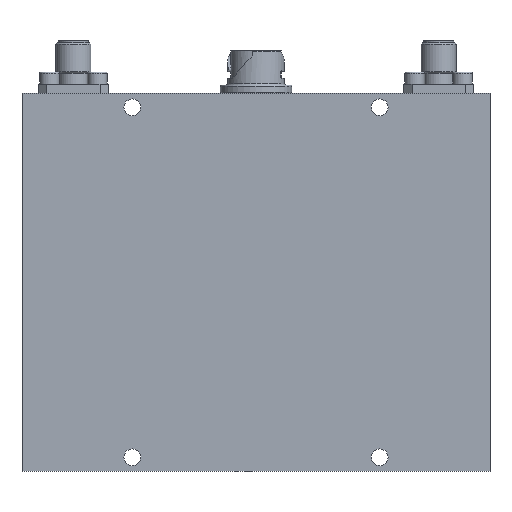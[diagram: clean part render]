
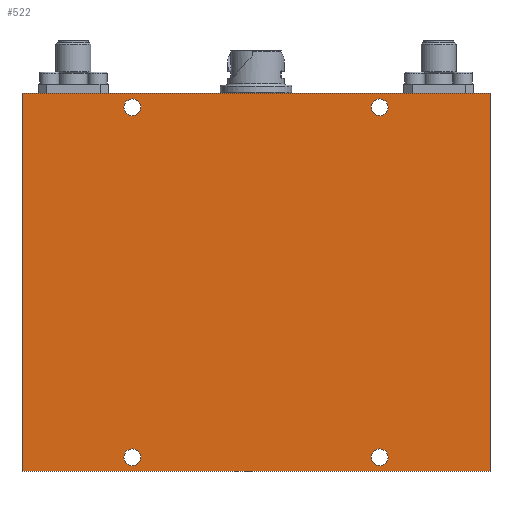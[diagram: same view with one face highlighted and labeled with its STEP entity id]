
A CAD part, front view. The second image highlights one B-rep face of the part: STEP entity #522.
In plain terms, the highlighted planar face has unit normal (0, -1, 0).
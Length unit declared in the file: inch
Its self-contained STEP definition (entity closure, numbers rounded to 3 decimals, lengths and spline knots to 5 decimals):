
#235=CARTESIAN_POINT('',(0.82,0.0,1.245));
#236=VERTEX_POINT('',#235);
#237=CARTESIAN_POINT('',(0.88,0.0,1.245));
#238=DIRECTION('',(0.0,1.0,0.0));
#239=DIRECTION('',(1.0,0.0,0.0));
#240=AXIS2_PLACEMENT_3D('',#237,#238,#239);
#241=CIRCLE('',#240,0.06);
#242=EDGE_CURVE('',#236,#236,#241,.T.);
#263=CARTESIAN_POINT('',(-0.94,0.0,-1.245));
#264=VERTEX_POINT('',#263);
#265=CARTESIAN_POINT('',(-0.88,0.0,-1.245));
#266=DIRECTION('',(0.0,1.0,0.0));
#267=DIRECTION('',(1.0,0.0,0.0));
#268=AXIS2_PLACEMENT_3D('',#265,#266,#267);
#269=CIRCLE('',#268,0.06);
#270=EDGE_CURVE('',#264,#264,#269,.T.);
#291=CARTESIAN_POINT('',(0.82,0.0,-1.245));
#292=VERTEX_POINT('',#291);
#293=CARTESIAN_POINT('',(0.88,0.0,-1.245));
#294=DIRECTION('',(0.0,1.0,0.0));
#295=DIRECTION('',(1.0,0.0,0.0));
#296=AXIS2_PLACEMENT_3D('',#293,#294,#295);
#297=CIRCLE('',#296,0.06);
#298=EDGE_CURVE('',#292,#292,#297,.T.);
#319=CARTESIAN_POINT('',(-0.94,0.0,1.245));
#320=VERTEX_POINT('',#319);
#321=CARTESIAN_POINT('',(-0.88,0.0,1.245));
#322=DIRECTION('',(0.0,1.0,0.0));
#323=DIRECTION('',(1.0,0.0,0.0));
#324=AXIS2_PLACEMENT_3D('',#321,#322,#323);
#325=CIRCLE('',#324,0.06);
#326=EDGE_CURVE('',#320,#320,#325,.T.);
#347=CARTESIAN_POINT('',(-1.665,0.0,1.345));
#348=VERTEX_POINT('',#347);
#349=CARTESIAN_POINT('',(-1.665,0.0,-1.345));
#350=VERTEX_POINT('',#349);
#351=CARTESIAN_POINT('',(-1.665,0.0,1.345));
#352=DIRECTION('',(0.0,0.0,-1.0));
#353=VECTOR('',#352,2.69);
#354=LINE('',#351,#353);
#355=EDGE_CURVE('',#348,#350,#354,.T.);
#387=CARTESIAN_POINT('',(1.665,0.0,-1.345));
#388=VERTEX_POINT('',#387);
#389=CARTESIAN_POINT('',(-1.665,0.0,-1.345));
#390=DIRECTION('',(1.0,0.0,0.0));
#391=VECTOR('',#390,3.33);
#392=LINE('',#389,#391);
#393=EDGE_CURVE('',#350,#388,#392,.T.);
#418=CARTESIAN_POINT('',(1.665,0.0,1.345));
#419=VERTEX_POINT('',#418);
#420=CARTESIAN_POINT('',(1.665,0.0,-1.345));
#421=DIRECTION('',(0.0,0.0,1.0));
#422=VECTOR('',#421,2.69);
#423=LINE('',#420,#422);
#424=EDGE_CURVE('',#388,#419,#423,.T.);
#449=CARTESIAN_POINT('',(1.665,0.0,1.345));
#450=DIRECTION('',(-1.0,0.0,0.0));
#451=VECTOR('',#450,3.33);
#452=LINE('',#449,#451);
#453=EDGE_CURVE('',#419,#348,#452,.T.);
#499=CARTESIAN_POINT('',(0.0,0.0,0.0));
#500=DIRECTION('',(0.0,1.0,0.0));
#501=DIRECTION('',(0.0,0.0,1.0));
#502=AXIS2_PLACEMENT_3D('',#499,#500,#501);
#503=PLANE('',#502);
#504=ORIENTED_EDGE('',*,*,#453,.T.);
#505=ORIENTED_EDGE('',*,*,#355,.T.);
#506=ORIENTED_EDGE('',*,*,#393,.T.);
#507=ORIENTED_EDGE('',*,*,#424,.T.);
#508=EDGE_LOOP('',(#504,#505,#506,#507));
#509=FACE_OUTER_BOUND('',#508,.T.);
#510=ORIENTED_EDGE('',*,*,#242,.T.);
#511=EDGE_LOOP('',(#510));
#512=FACE_BOUND('',#511,.T.);
#513=ORIENTED_EDGE('',*,*,#270,.T.);
#514=EDGE_LOOP('',(#513));
#515=FACE_BOUND('',#514,.T.);
#516=ORIENTED_EDGE('',*,*,#298,.T.);
#517=EDGE_LOOP('',(#516));
#518=FACE_BOUND('',#517,.T.);
#519=ORIENTED_EDGE('',*,*,#326,.T.);
#520=EDGE_LOOP('',(#519));
#521=FACE_BOUND('',#520,.T.);
#522=ADVANCED_FACE('',(#509,#512,#515,#518,#521),#503,.F.);
